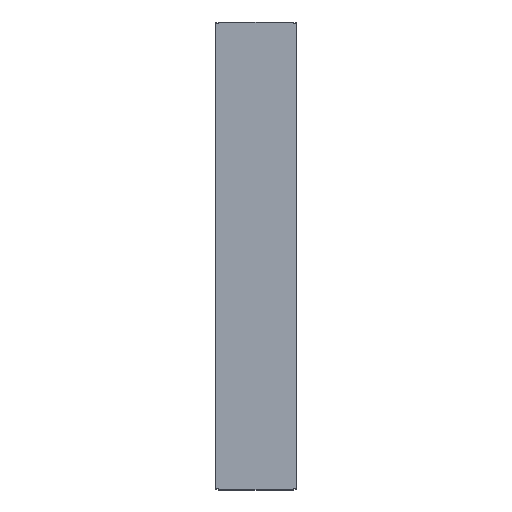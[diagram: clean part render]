
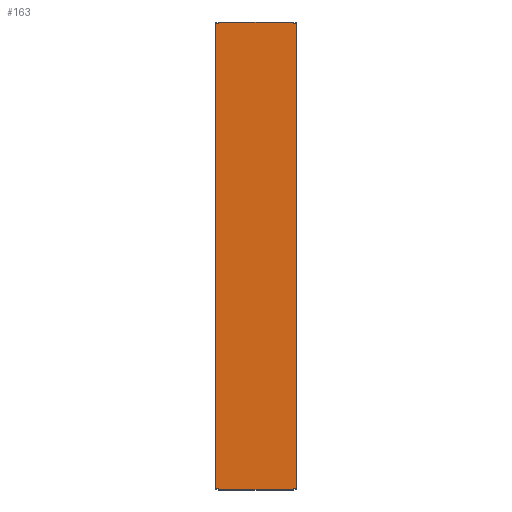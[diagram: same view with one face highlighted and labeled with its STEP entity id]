
A CAD part, top view. The second image highlights one B-rep face of the part: STEP entity #163.
In plain terms, the highlighted planar face has unit normal (0, 0, 1) as drawn and (0, 0, -1) by its records, which use the part's own axes.
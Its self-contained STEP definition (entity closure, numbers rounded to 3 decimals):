
#163 = ADVANCED_FACE( '', ( #315 ), #316, .F. );
#315 = FACE_OUTER_BOUND( '', #455, .T. );
#316 = PLANE( '', #456 );
#455 = EDGE_LOOP( '', ( #828, #829, #830, #831, #832, #833, #834, #835, #836, #837, #838, #839 ) );
#456 = AXIS2_PLACEMENT_3D( '', #840, #841, #842 );
#828 = ORIENTED_EDGE( '', *, *, #1003, .T. );
#829 = ORIENTED_EDGE( '', *, *, #993, .F. );
#830 = ORIENTED_EDGE( '', *, *, #927, .T. );
#831 = ORIENTED_EDGE( '', *, *, #1007, .T. );
#832 = ORIENTED_EDGE( '', *, *, #1019, .T. );
#833 = ORIENTED_EDGE( '', *, *, #1026, .F. );
#834 = ORIENTED_EDGE( '', *, *, #1036, .T. );
#835 = ORIENTED_EDGE( '', *, *, #1011, .T. );
#836 = ORIENTED_EDGE( '', *, *, #1029, .F. );
#837 = ORIENTED_EDGE( '', *, *, #988, .F. );
#838 = ORIENTED_EDGE( '', *, *, #1037, .T. );
#839 = ORIENTED_EDGE( '', *, *, #996, .T. );
#840 = CARTESIAN_POINT( '', ( 147., 847., 0. ) );
#841 = DIRECTION( '', ( 0., 0., 1. ) );
#842 = DIRECTION( '', ( 1., 0., 0. ) );
#927 = EDGE_CURVE( '', #1126, #1124, #1127, .T. );
#988 = EDGE_CURVE( '', #1216, #1218, #1219, .T. );
#993 = EDGE_CURVE( '', #1126, #1222, #1225, .T. );
#996 = EDGE_CURVE( '', #1230, #1227, #1231, .T. );
#1003 = EDGE_CURVE( '', #1227, #1222, #1239, .T. );
#1007 = EDGE_CURVE( '', #1124, #1242, #1244, .T. );
#1011 = EDGE_CURVE( '', #1248, #1249, #1250, .T. );
#1019 = EDGE_CURVE( '', #1242, #1258, #1260, .T. );
#1026 = EDGE_CURVE( '', #1266, #1258, #1268, .T. );
#1029 = EDGE_CURVE( '', #1218, #1249, #1271, .T. );
#1036 = EDGE_CURVE( '', #1266, #1248, #1278, .T. );
#1037 = EDGE_CURVE( '', #1216, #1230, #1279, .T. );
#1124 = VERTEX_POINT( '', #1403 );
#1126 = VERTEX_POINT( '', #1406 );
#1127 = LINE( '', #1407, #1408 );
#1216 = VERTEX_POINT( '', #1544 );
#1218 = VERTEX_POINT( '', #1547 );
#1219 = LINE( '', #1548, #1549 );
#1222 = VERTEX_POINT( '', #1553 );
#1225 = LINE( '', #1558, #1559 );
#1227 = VERTEX_POINT( '', #1561 );
#1230 = VERTEX_POINT( '', #1565 );
#1231 = LINE( '', #1566, #1567 );
#1239 = LINE( '', #1580, #1581 );
#1242 = VERTEX_POINT( '', #1585 );
#1244 = LINE( '', #1588, #1589 );
#1248 = VERTEX_POINT( '', #1594 );
#1249 = VERTEX_POINT( '', #1595 );
#1250 = LINE( '', #1596, #1597 );
#1258 = VERTEX_POINT( '', #1609 );
#1260 = LINE( '', #1612, #1613 );
#1266 = VERTEX_POINT( '', #1622 );
#1268 = LINE( '', #1625, #1626 );
#1271 = LINE( '', #1629, #1630 );
#1278 = LINE( '', #1638, #1639 );
#1279 = LINE( '', #1640, #1641 );
#1403 = CARTESIAN_POINT( '', ( -135., -847., 0. ) );
#1406 = CARTESIAN_POINT( '', ( 135., -847., 0. ) );
#1407 = CARTESIAN_POINT( '', ( 135., -847., 0. ) );
#1408 = VECTOR( '', #1684, 1000. );
#1544 = CARTESIAN_POINT( '', ( 135., 843., 0. ) );
#1547 = CARTESIAN_POINT( '', ( 135., 847., 0. ) );
#1548 = CARTESIAN_POINT( '', ( 135., -847., 0. ) );
#1549 = VECTOR( '', #1733, 1000. );
#1553 = CARTESIAN_POINT( '', ( 135., -843., 0. ) );
#1558 = CARTESIAN_POINT( '', ( 135., -847., 0. ) );
#1559 = VECTOR( '', #1737, 1000. );
#1561 = CARTESIAN_POINT( '', ( 147., -843., 0. ) );
#1565 = CARTESIAN_POINT( '', ( 147., 843., 0. ) );
#1566 = CARTESIAN_POINT( '', ( 147., 847., 0. ) );
#1567 = VECTOR( '', #1739, 1000. );
#1580 = CARTESIAN_POINT( '', ( 147., -843., 0. ) );
#1581 = VECTOR( '', #1745, 1000. );
#1585 = CARTESIAN_POINT( '', ( -135., -843., 0. ) );
#1588 = CARTESIAN_POINT( '', ( -135., -847., 0. ) );
#1589 = VECTOR( '', #1748, 1000. );
#1594 = CARTESIAN_POINT( '', ( -135., 843., 0. ) );
#1595 = CARTESIAN_POINT( '', ( -135., 847., 0. ) );
#1596 = CARTESIAN_POINT( '', ( -135., -847., 0. ) );
#1597 = VECTOR( '', #1750, 1000. );
#1609 = CARTESIAN_POINT( '', ( -147., -843., 0. ) );
#1612 = CARTESIAN_POINT( '', ( 147., -843., 0. ) );
#1613 = VECTOR( '', #1756, 1000. );
#1622 = CARTESIAN_POINT( '', ( -147., 843., 0. ) );
#1625 = CARTESIAN_POINT( '', ( -147., 847., 0. ) );
#1626 = VECTOR( '', #1761, 1000. );
#1629 = CARTESIAN_POINT( '', ( 135., 847., 0. ) );
#1630 = VECTOR( '', #1762, 1000. );
#1638 = CARTESIAN_POINT( '', ( 147., 843., 0. ) );
#1639 = VECTOR( '', #1764, 1000. );
#1640 = CARTESIAN_POINT( '', ( 147., 843., 0. ) );
#1641 = VECTOR( '', #1765, 1000. );
#1684 = DIRECTION( '', ( -1., 0., 0. ) );
#1733 = DIRECTION( '', ( 0., 1., 0. ) );
#1737 = DIRECTION( '', ( 0., 1., 0. ) );
#1739 = DIRECTION( '', ( 0., -1., 0. ) );
#1745 = DIRECTION( '', ( -1., 0., 0. ) );
#1748 = DIRECTION( '', ( 0., 1., 0. ) );
#1750 = DIRECTION( '', ( 0., 1., 0. ) );
#1756 = DIRECTION( '', ( -1., 0., 0. ) );
#1761 = DIRECTION( '', ( 0., -1., 0. ) );
#1762 = DIRECTION( '', ( -1., 0., 0. ) );
#1764 = DIRECTION( '', ( 1., 0., 0. ) );
#1765 = DIRECTION( '', ( 1., 0., 0. ) );
